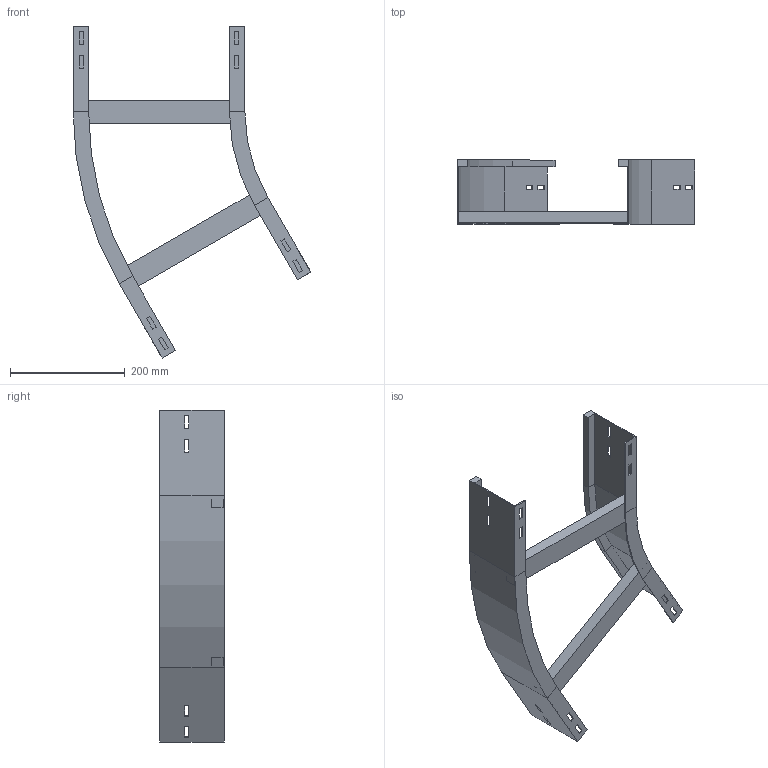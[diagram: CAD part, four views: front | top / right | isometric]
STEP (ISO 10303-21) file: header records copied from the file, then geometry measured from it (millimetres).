
FILE_DESCRIPTION (( 'STEP AP214' ), '1' );
FILE_NAME ('A2_12B3J300.step', '2025-02-21T15:08:53', ( '' ), ( '' ), 'SwSTEP 2.0', 'SolidWorks 2023', '' );
FILE_SCHEMA (( 'AUTOMOTIVE_DESIGN' ));
Length unit declared in the file: millimetre
Products named in the file (4): TRAVERSINO_300; A2_LONGH.INTERNO 30°_H112.5_R300; A2_LONGH.ESTERNO 30°_H112.5_R300+300; A2_12B3J300
Assembly tree (4 placements, depth 2):
  A2_12B3J300
    A2_LONGH.INTERNO 30°_H112.5_R300
    A2_LONGH.ESTERNO 30°_H112.5_R300+300
    TRAVERSINO_300  x2
Bounding box: 415.19 x 112.5 x 579.9 mm (x, y, z)
Volume: 974860.6 mm3; surface area: 406823.3 mm2
Topology: 4 solids, 4 shells, 128 faces, 328 edges, 208 vertices
Faces by surface type: plane 120, cylinder 8
Entity records: 3813 total; most frequent: CARTESIAN_POINT 645, ORIENTED_EDGE 632, DIRECTION 590, EDGE_CURVE 316, VECTOR 300, LINE 300, VERTEX_POINT 200, EDGE_LOOP 154
